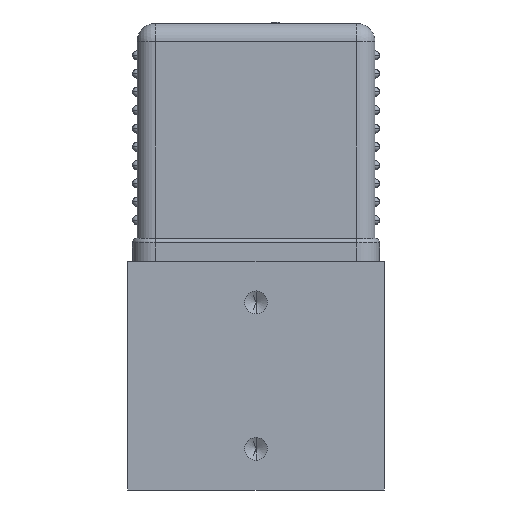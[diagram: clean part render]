
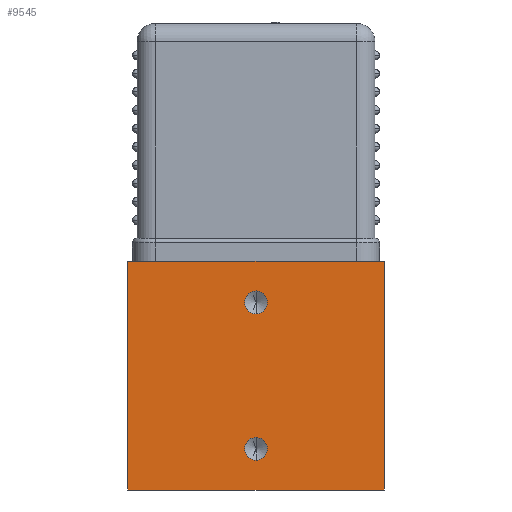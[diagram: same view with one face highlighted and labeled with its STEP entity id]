
A CAD part, front view. The second image highlights one B-rep face of the part: STEP entity #9545.
In plain terms, the highlighted planar face has unit normal (0, -1, 0).
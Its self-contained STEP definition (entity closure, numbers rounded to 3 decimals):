
#231 = VERTEX_POINT ( 'NONE', #11020 ) ;
#723 = CARTESIAN_POINT ( 'NONE',  ( 0., -7.5, -9.25 ) ) ;
#907 = CARTESIAN_POINT ( 'NONE',  ( -14., -7.5, 12.5 ) ) ;
#1167 = AXIS2_PLACEMENT_3D ( 'NONE', #14859, #12454, #16103 ) ;
#1284 = LINE ( 'NONE', #5346, #9105 ) ;
#1511 = CARTESIAN_POINT ( 'NONE',  ( 0., -7.5, -8. ) ) ;
#1579 = EDGE_CURVE ( 'NONE', #2286, #1804, #4061, .T. ) ;
#1690 = ORIENTED_EDGE ( 'NONE', *, *, #4610, .F. ) ;
#1804 = VERTEX_POINT ( 'NONE', #7780 ) ;
#1813 = EDGE_CURVE ( 'NONE', #7327, #6149, #7982, .T. ) ;
#2000 = CIRCLE ( 'NONE', #3576, 1.25 ) ;
#2069 = EDGE_LOOP ( 'NONE', ( #15793, #8772 ) ) ;
#2111 = VERTEX_POINT ( 'NONE', #2972 ) ;
#2286 = VERTEX_POINT ( 'NONE', #3438 ) ;
#2498 = DIRECTION ( 'NONE',  ( 0., 1., 0. ) ) ;
#2725 = VECTOR ( 'NONE', #8535, 1000. ) ;
#2972 = CARTESIAN_POINT ( 'NONE',  ( 14., -7.5, -12.5 ) ) ;
#3197 = ORIENTED_EDGE ( 'NONE', *, *, #1579, .F. ) ;
#3438 = CARTESIAN_POINT ( 'NONE',  ( -14., -7.5, 12.5 ) ) ;
#3447 = DIRECTION ( 'NONE',  ( 1., 0., 0. ) ) ;
#3452 = VERTEX_POINT ( 'NONE', #4453 ) ;
#3474 = VECTOR ( 'NONE', #9075, 1000. ) ;
#3576 = AXIS2_PLACEMENT_3D ( 'NONE', #15398, #12929, #12874 ) ;
#3725 = EDGE_CURVE ( 'NONE', #3452, #231, #13440, .T. ) ;
#4061 = LINE ( 'NONE', #907, #13258 ) ;
#4114 = CARTESIAN_POINT ( 'NONE',  ( 0., -7.5, -6.75 ) ) ;
#4336 = FACE_OUTER_BOUND ( 'NONE', #8237, .T. ) ;
#4453 = CARTESIAN_POINT ( 'NONE',  ( 0., -7.5, 6.75 ) ) ;
#4602 = CARTESIAN_POINT ( 'NONE',  ( -14., -7.5, 12.5 ) ) ;
#4610 = EDGE_CURVE ( 'NONE', #1804, #2111, #6831, .T. ) ;
#4714 = ORIENTED_EDGE ( 'NONE', *, *, #5360, .F. ) ;
#5346 = CARTESIAN_POINT ( 'NONE',  ( -14., -7.5, -12.5 ) ) ;
#5360 = EDGE_CURVE ( 'NONE', #231, #3452, #13090, .T. ) ;
#5775 = AXIS2_PLACEMENT_3D ( 'NONE', #1511, #15133, #15183 ) ;
#6149 = VERTEX_POINT ( 'NONE', #723 ) ;
#6208 = CARTESIAN_POINT ( 'NONE',  ( -14., -7.5, 12.5 ) ) ;
#6306 = FACE_BOUND ( 'NONE', #14568, .T. ) ;
#6361 = ORIENTED_EDGE ( 'NONE', *, *, #12346, .T. ) ;
#6831 = LINE ( 'NONE', #11430, #3474 ) ;
#7018 = DIRECTION ( 'NONE',  ( 0., -1., 0. ) ) ;
#7327 = VERTEX_POINT ( 'NONE', #4114 ) ;
#7629 = DIRECTION ( 'NONE',  ( 0., 0., 1. ) ) ;
#7780 = CARTESIAN_POINT ( 'NONE',  ( 14., -7.5, 12.5 ) ) ;
#7909 = DIRECTION ( 'NONE',  ( 1., 0., 0. ) ) ;
#7982 = CIRCLE ( 'NONE', #5775, 1.25 ) ;
#8237 = EDGE_LOOP ( 'NONE', ( #6361, #1690, #3197, #13501 ) ) ;
#8535 = DIRECTION ( 'NONE',  ( 0., 0., -1. ) ) ;
#8677 = AXIS2_PLACEMENT_3D ( 'NONE', #6208, #2498, #7629 ) ;
#8772 = ORIENTED_EDGE ( 'NONE', *, *, #1813, .F. ) ;
#9075 = DIRECTION ( 'NONE',  ( 0., 0., -1. ) ) ;
#9105 = VECTOR ( 'NONE', #7909, 1000. ) ;
#9545 = ADVANCED_FACE ( 'NONE', ( #6306, #14162, #4336 ), #12670, .F. ) ;
#10859 = VERTEX_POINT ( 'NONE', #11489 ) ;
#11020 = CARTESIAN_POINT ( 'NONE',  ( 0., -7.5, 9.25 ) ) ;
#11028 = EDGE_CURVE ( 'NONE', #2286, #10859, #12722, .T. ) ;
#11430 = CARTESIAN_POINT ( 'NONE',  ( 14., -7.5, 12.5 ) ) ;
#11472 = AXIS2_PLACEMENT_3D ( 'NONE', #15923, #7018, #12119 ) ;
#11489 = CARTESIAN_POINT ( 'NONE',  ( -14., -7.5, -12.5 ) ) ;
#12119 = DIRECTION ( 'NONE',  ( 0., 0., -1. ) ) ;
#12346 = EDGE_CURVE ( 'NONE', #10859, #2111, #1284, .T. ) ;
#12454 = DIRECTION ( 'NONE',  ( 0., -1., 0. ) ) ;
#12670 = PLANE ( 'NONE',  #8677 ) ;
#12722 = LINE ( 'NONE', #4602, #2725 ) ;
#12874 = DIRECTION ( 'NONE',  ( 0., 0., -1. ) ) ;
#12929 = DIRECTION ( 'NONE',  ( 0., -1., 0. ) ) ;
#13090 = CIRCLE ( 'NONE', #1167, 1.25 ) ;
#13258 = VECTOR ( 'NONE', #3447, 1000. ) ;
#13440 = CIRCLE ( 'NONE', #11472, 1.25 ) ;
#13501 = ORIENTED_EDGE ( 'NONE', *, *, #11028, .T. ) ;
#13812 = EDGE_CURVE ( 'NONE', #6149, #7327, #2000, .T. ) ;
#14162 = FACE_BOUND ( 'NONE', #2069, .T. ) ;
#14568 = EDGE_LOOP ( 'NONE', ( #16016, #4714 ) ) ;
#14859 = CARTESIAN_POINT ( 'NONE',  ( 0., -7.5, 8. ) ) ;
#15133 = DIRECTION ( 'NONE',  ( 0., -1., 0. ) ) ;
#15183 = DIRECTION ( 'NONE',  ( 0., 0., -1. ) ) ;
#15398 = CARTESIAN_POINT ( 'NONE',  ( 0., -7.5, -8. ) ) ;
#15793 = ORIENTED_EDGE ( 'NONE', *, *, #13812, .F. ) ;
#15923 = CARTESIAN_POINT ( 'NONE',  ( 0., -7.5, 8. ) ) ;
#16016 = ORIENTED_EDGE ( 'NONE', *, *, #3725, .F. ) ;
#16103 = DIRECTION ( 'NONE',  ( 0., 0., -1. ) ) ;
